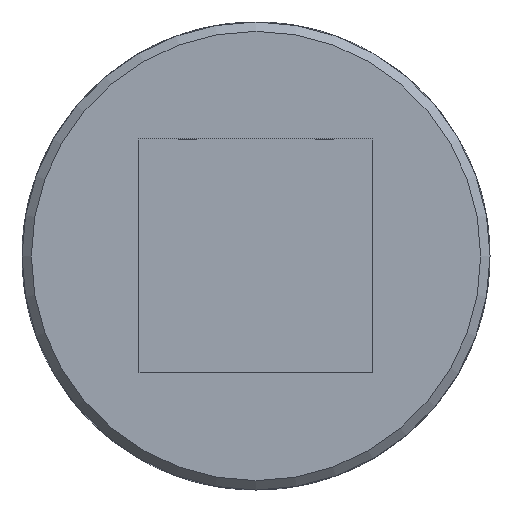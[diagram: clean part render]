
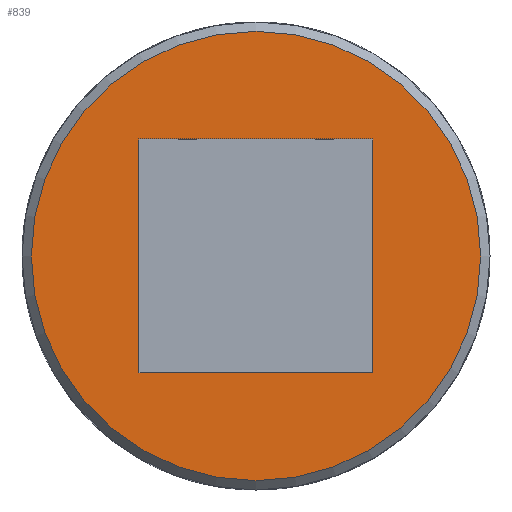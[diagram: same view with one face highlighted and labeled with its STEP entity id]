
A CAD part, front view. The second image highlights one B-rep face of the part: STEP entity #839.
In plain terms, the highlighted planar face has unit normal (0, -1, 0).
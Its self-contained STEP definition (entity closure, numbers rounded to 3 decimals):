
#94=LINE('',#1249,#134);
#98=LINE('',#1272,#138);
#104=LINE('',#1310,#144);
#107=LINE('',#1330,#147);
#134=VECTOR('',#1026,25.);
#138=VECTOR('',#1034,25.);
#144=VECTOR('',#1042,25.);
#147=VECTOR('',#1049,25.);
#174=PLANE('',#913);
#199=FACE_BOUND('',#299,.T.);
#234=FACE_OUTER_BOUND('',#298,.T.);
#298=EDGE_LOOP('',(#679));
#299=EDGE_LOOP('',(#680,#681,#682,#683));
#348=CIRCLE('',#911,24.);
#386=VERTEX_POINT('',#1246);
#387=VERTEX_POINT('',#1248);
#393=VERTEX_POINT('',#1271);
#402=VERTEX_POINT('',#1308);
#409=VERTEX_POINT('',#1377);
#475=EDGE_CURVE('',#387,#386,#94,.T.);
#482=EDGE_CURVE('',#393,#387,#98,.T.);
#492=EDGE_CURVE('',#386,#402,#104,.T.);
#498=EDGE_CURVE('',#402,#393,#107,.T.);
#509=EDGE_CURVE('',#409,#409,#348,.T.);
#679=ORIENTED_EDGE('',*,*,#509,.F.);
#680=ORIENTED_EDGE('',*,*,#475,.T.);
#681=ORIENTED_EDGE('',*,*,#492,.T.);
#682=ORIENTED_EDGE('',*,*,#498,.T.);
#683=ORIENTED_EDGE('',*,*,#482,.T.);
#839=ADVANCED_FACE('',(#234,#199),#174,.F.);
#911=AXIS2_PLACEMENT_3D('',#1378,#1078,#1079);
#913=AXIS2_PLACEMENT_3D('',#1586,#1086,#1087);
#1026=DIRECTION('',(0.,0.,-1.));
#1034=DIRECTION('',(1.,0.,0.));
#1042=DIRECTION('',(-1.,0.,0.));
#1049=DIRECTION('',(0.,0.,1.));
#1078=DIRECTION('center_axis',(0.,1.,0.));
#1079=DIRECTION('ref_axis',(1.,0.,0.));
#1086=DIRECTION('center_axis',(0.,1.,0.));
#1087=DIRECTION('ref_axis',(0.,0.,1.));
#1246=CARTESIAN_POINT('',(12.5,-78.5,-12.5));
#1248=CARTESIAN_POINT('',(12.5,-78.5,12.5));
#1249=CARTESIAN_POINT('',(12.5,-78.5,6.25));
#1271=CARTESIAN_POINT('',(-12.5,-78.5,12.5));
#1272=CARTESIAN_POINT('',(-6.25,-78.5,12.5));
#1308=CARTESIAN_POINT('',(-12.5,-78.5,-12.5));
#1310=CARTESIAN_POINT('',(6.25,-78.5,-12.5));
#1330=CARTESIAN_POINT('',(-12.5,-78.5,-6.25));
#1377=CARTESIAN_POINT('',(-24.,-78.5,0.));
#1378=CARTESIAN_POINT('Origin',(0.,-78.5,0.));
#1586=CARTESIAN_POINT('Origin',(0.,-78.5,0.));
